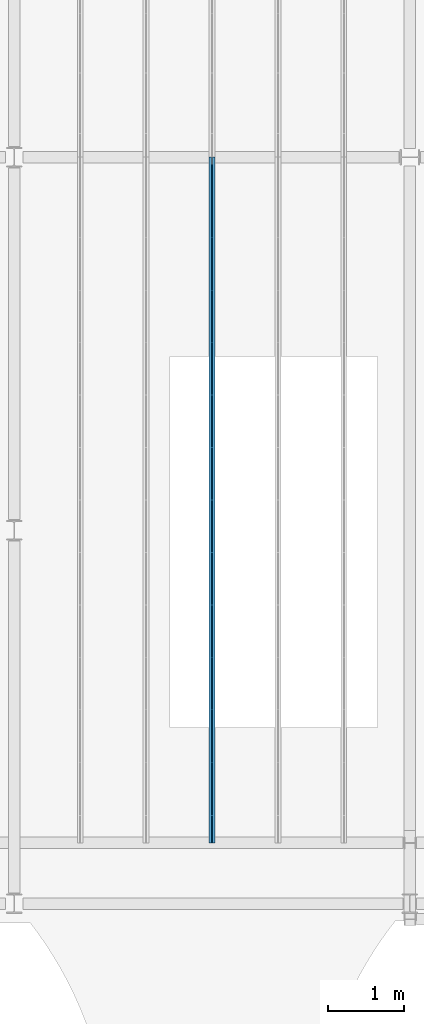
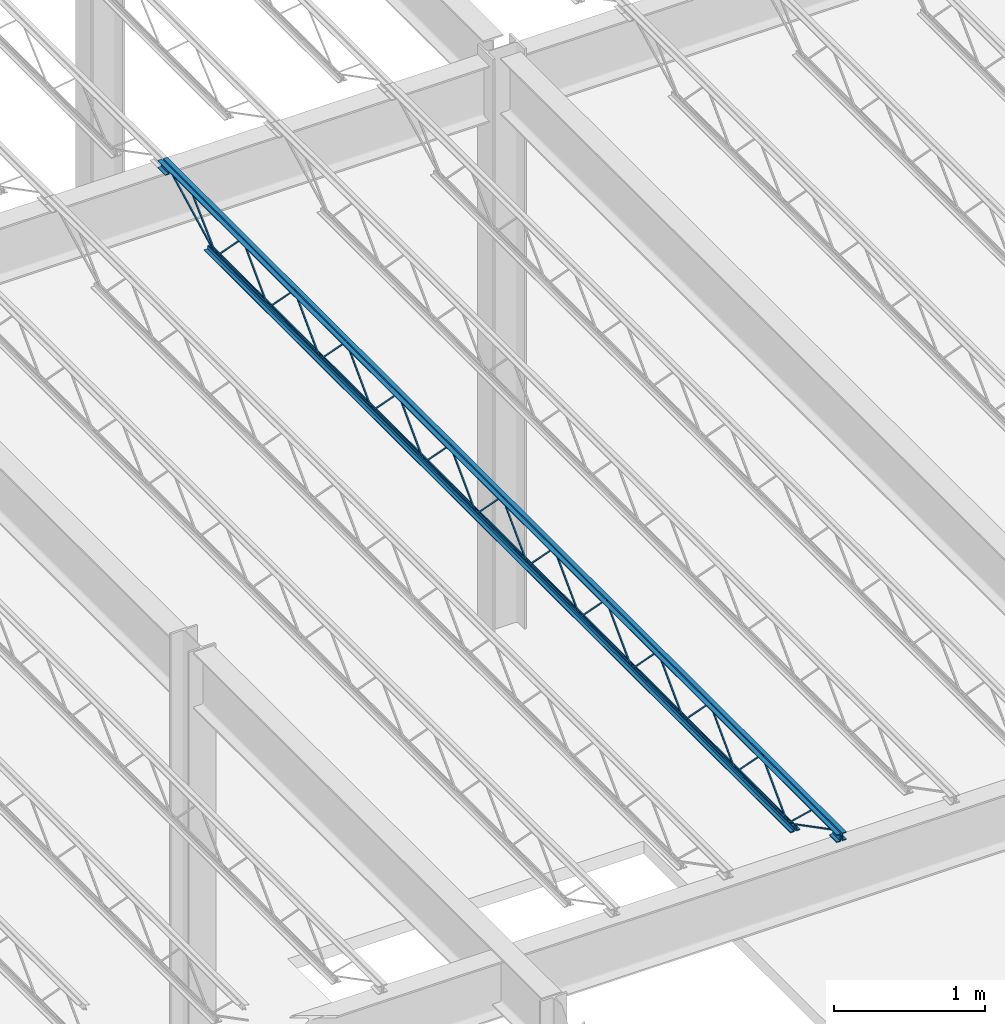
# One storey, part 54 of 119: 1 beam.
"""IFC2X3 building model written with IfcOpenShell, lengths in metres."""

from ifc_helpers import new_model, entity, si_unit, converted_unit, frame, origin, place, context, project, spatial, face_set, surface_model, element, save


model = new_model("IFC2X3")

# Units and contexts
model_context = context("Model", 3, precision=1e-09, world=origin())
plan_context = context("Plan", 3, precision=1e-09, world=origin())
ifc_project = project(units=[si_unit("LENGTHUNIT", "METRE"), si_unit("AREAUNIT", "SQUARE_METRE"), si_unit("VOLUMEUNIT", "CUBIC_METRE"), converted_unit("PLANEANGLEUNIT", "DEGREE", entity("IfcRatioMeasure", 0.01745329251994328), si_unit("PLANEANGLEUNIT", "RADIAN"), dimensions=[0, 0, 0, 0, 0, 0, 0]), si_unit("TIMEUNIT", "SECOND")], contexts=[model_context, plan_context])

# Site, building, storey
site_placement = place(None, origin())
site = spatial("IfcSite", under=ifc_project, at=site_placement, Name="Default", CompositionType="ELEMENT")
building_placement = place(site_placement, origin())
building = spatial("IfcBuilding", under=site, at=building_placement, CompositionType="ELEMENT")
storey_placement = place(building_placement, frame((0.0, 0.0, 4.570000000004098)))
storey = spatial("IfcBuildingStorey", under=building, at=storey_placement, Name="Second Floor", CompositionType="ELEMENT", Elevation=4.570000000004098)

# Beam
beam_placement = place(storey_placement, frame((-17.50673749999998, 35.80499999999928, 4.323999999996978)))
element("IfcBeam", 1, at=beam_placement, inside=storey, Name="M_K-Series Bar Joist-Rod Web:14K1:14K1", ObjectType="M_K-Series Bar Joist-Rod Web:14K1", context=model_context, shape_type="SurfaceModel", body=[
    surface_model("IfcFaceBasedSurfaceModel", [(0.04150000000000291, 6.890090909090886, 0.01110000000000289), (0.03200000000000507, 6.890090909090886, 0.01110000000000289), (0.03200000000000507, 6.890090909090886, 0.001600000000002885), (0.04150000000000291, 6.890090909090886, 0.001600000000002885), (0.0320000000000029, 6.89127206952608, 0.01110000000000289), (0.04150000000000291, 6.89127206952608, 0.01110000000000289), (0.03200000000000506, 6.895259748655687, 0.001600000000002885), (0.03200000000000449, 7.232137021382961, 0.3449000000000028), (0.03200000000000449, 7.234499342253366, 0.3449000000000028), (0.03200000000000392, 7.571376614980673, 0.001600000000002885), (0.03200000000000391, 7.57654545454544, 0.001600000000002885), (0.03200000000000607, 7.57654545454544, 0.01110000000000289), (0.03200000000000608, 7.575364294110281, 0.01110000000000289), (0.03200000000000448, 7.238487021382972, 0.3544000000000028), (0.0320000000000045, 7.228149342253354, 0.3544000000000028), (0.04150000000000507, 6.895259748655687, 0.001600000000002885), (0.04150000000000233, 7.232137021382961, 0.3449000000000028), (0.04150000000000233, 7.234499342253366, 0.3449000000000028), (0.04150000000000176, 7.571376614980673, 0.001600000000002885), (0.04150000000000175, 7.57654545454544, 0.001600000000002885), (0.04150000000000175, 7.57654545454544, 0.01110000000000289), (0.04150000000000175, 7.575364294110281, 0.01110000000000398), (0.04150000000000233, 7.238487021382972, 0.3544000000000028), (0.04150000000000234, 7.228149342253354, 0.3544000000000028), (0.0415000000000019, 6.203636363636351, 0.01110000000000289), (0.03200000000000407, 6.203636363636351, 0.01110000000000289), (0.03200000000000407, 6.203636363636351, 0.001600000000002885), (0.0415000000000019, 6.203636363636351, 0.001600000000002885), (0.0320000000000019, 6.204817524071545, 0.01110000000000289), (0.0415000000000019, 6.204817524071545, 0.01110000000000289), (0.03200000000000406, 6.208805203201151, 0.001600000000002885), (0.03200000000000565, 6.545682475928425, 0.3449000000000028), (0.03200000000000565, 6.548044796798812, 0.3449000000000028), (0.03200000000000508, 6.88492206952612, 0.001600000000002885), (0.03200000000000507, 6.888909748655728, 0.01110000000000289), (0.03200000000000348, 6.552032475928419, 0.3544000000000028), (0.0320000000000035, 6.541694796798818, 0.3544000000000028), (0.04150000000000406, 6.208805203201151, 0.001600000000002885), (0.04150000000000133, 6.545682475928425, 0.3449000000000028), (0.04150000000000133, 6.548044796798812, 0.3449000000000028), (0.04150000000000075, 6.88492206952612, 0.001600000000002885), (0.04150000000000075, 6.890090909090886, 0.001600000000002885), (0.04150000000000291, 6.888909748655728, 0.01110000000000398), (0.04150000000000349, 6.552032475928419, 0.3544000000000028), (0.0415000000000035, 6.541694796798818, 0.3544000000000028), (0.04150000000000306, 5.517181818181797, 0.01110000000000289), (0.03200000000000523, 5.517181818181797, 0.01110000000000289), (0.03200000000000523, 5.517181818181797, 0.001600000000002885), (0.04150000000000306, 5.517181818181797, 0.001600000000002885), (0.03200000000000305, 5.518362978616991, 0.01110000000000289), (0.04150000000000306, 5.518362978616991, 0.01110000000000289), (0.03200000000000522, 5.522350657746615, 0.001600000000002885), (0.03200000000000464, 5.859227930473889, 0.3449000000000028), (0.03200000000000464, 5.861590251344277, 0.3449000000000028), (0.03200000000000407, 6.198467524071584, 0.001600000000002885), (0.03200000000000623, 6.203636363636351, 0.01110000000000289), (0.03200000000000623, 6.202455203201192, 0.01110000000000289), (0.03200000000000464, 5.865577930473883, 0.3544000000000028), (0.03200000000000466, 5.855240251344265, 0.3544000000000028), (0.04150000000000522, 5.522350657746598, 0.001600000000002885), (0.04150000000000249, 5.859227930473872, 0.3449000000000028), (0.04150000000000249, 5.861590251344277, 0.3449000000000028), (0.04150000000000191, 6.198467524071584, 0.001600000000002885), (0.04150000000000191, 6.202455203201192, 0.01110000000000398), (0.04150000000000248, 5.865577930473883, 0.3544000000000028), (0.04150000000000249, 5.855240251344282, 0.3544000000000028), (0.04150000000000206, 4.830727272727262, 0.01110000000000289), (0.03200000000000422, 4.830727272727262, 0.01110000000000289), (0.03200000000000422, 4.830727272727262, 0.001600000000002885), (0.04150000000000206, 4.830727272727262, 0.001600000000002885), (0.03200000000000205, 4.831908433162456, 0.01110000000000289), (0.04150000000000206, 4.831908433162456, 0.01110000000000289), (0.03200000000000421, 4.835896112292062, 0.001600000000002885), (0.0320000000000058, 5.172773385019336, 0.3449000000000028), (0.0320000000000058, 5.175135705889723, 0.3449000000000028), (0.03200000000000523, 5.512012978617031, 0.001600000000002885), (0.03200000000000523, 5.517181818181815, 0.001600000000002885), (0.03200000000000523, 5.516000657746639, 0.01110000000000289), (0.03200000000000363, 5.17912338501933, 0.3544000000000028), (0.03200000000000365, 5.168785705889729, 0.3544000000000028), (0.04150000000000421, 4.835896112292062, 0.001600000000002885), (0.04150000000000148, 5.172773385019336, 0.3449000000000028), (0.04150000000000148, 5.175135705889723, 0.3449000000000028), (0.0415000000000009, 5.512012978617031, 0.001600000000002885), (0.0415000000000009, 5.517181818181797, 0.001600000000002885), (0.04150000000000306, 5.517181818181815, 0.01110000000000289), (0.04150000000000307, 5.516000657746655, 0.01110000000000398), (0.04150000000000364, 5.17912338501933, 0.3544000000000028), (0.04150000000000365, 5.168785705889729, 0.3544000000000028), (0.04150000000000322, 4.144272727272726, 0.01110000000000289), (0.03200000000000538, 4.144272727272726, 0.01110000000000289), (0.03200000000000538, 4.144272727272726, 0.001600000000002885), (0.04150000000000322, 4.144272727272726, 0.001600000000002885), (0.03200000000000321, 4.145453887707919, 0.01110000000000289), (0.04150000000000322, 4.145453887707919, 0.01110000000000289), (0.03200000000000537, 4.149441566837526, 0.001600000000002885), (0.0320000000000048, 4.4863188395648, 0.3449000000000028), (0.0320000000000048, 4.488681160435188, 0.3449000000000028), (0.03200000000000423, 4.825558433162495, 0.001600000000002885), (0.03200000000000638, 4.830727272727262, 0.01110000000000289), (0.03200000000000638, 4.829546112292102, 0.01110000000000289), (0.03200000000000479, 4.492668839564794, 0.3544000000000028), (0.03200000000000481, 4.482331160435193, 0.3544000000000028), (0.04150000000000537, 4.149441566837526, 0.001600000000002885), (0.04150000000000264, 4.4863188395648, 0.3449000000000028), (0.04150000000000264, 4.488681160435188, 0.3449000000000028), (0.04150000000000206, 4.825558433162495, 0.001600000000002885), (0.04150000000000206, 4.829546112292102, 0.01110000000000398), (0.04150000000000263, 4.492668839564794, 0.3544000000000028), (0.04150000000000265, 4.482331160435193, 0.3544000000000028), (0.04150000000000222, 3.457818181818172, 0.01110000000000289), (0.03200000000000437, 3.457818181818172, 0.01110000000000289), (0.03200000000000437, 3.457818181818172, 0.001600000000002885), (0.04150000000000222, 3.457818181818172, 0.001600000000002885), (0.03200000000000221, 3.458999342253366, 0.01110000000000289), (0.04150000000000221, 3.458999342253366, 0.01110000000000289), (0.03200000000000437, 3.462987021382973, 0.001600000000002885), (0.0320000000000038, 3.799864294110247, 0.3449000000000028), (0.03200000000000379, 3.802226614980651, 0.3449000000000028), (0.03200000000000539, 4.13910388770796, 0.001600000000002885), (0.03200000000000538, 4.143091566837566, 0.01110000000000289), (0.03200000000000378, 3.806214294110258, 0.3544000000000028), (0.0320000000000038, 3.79587661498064, 0.3544000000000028), (0.04150000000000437, 3.462987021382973, 0.001600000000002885), (0.04150000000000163, 3.799864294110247, 0.3449000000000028), (0.04150000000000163, 3.802226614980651, 0.3449000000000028), (0.04150000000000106, 4.13910388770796, 0.001600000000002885), (0.04150000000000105, 4.144272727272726, 0.001600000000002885), (0.04150000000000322, 4.143091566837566, 0.01110000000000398), (0.04150000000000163, 3.806214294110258, 0.3544000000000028), (0.04150000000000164, 3.79587661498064, 0.3544000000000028), (0.04150000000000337, 2.771363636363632, 0.01110000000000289), (0.03200000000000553, 2.771363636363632, 0.01110000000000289), (0.03200000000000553, 2.771363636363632, 0.001600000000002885), (0.04150000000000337, 2.771363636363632, 0.001600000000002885), (0.03200000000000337, 2.77254479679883, 0.01110000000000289), (0.04150000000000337, 2.77254479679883, 0.01110000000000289), (0.03200000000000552, 2.776532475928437, 0.001600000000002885), (0.03200000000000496, 3.113409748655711, 0.3449000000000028), (0.03200000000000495, 3.115772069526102, 0.3449000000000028), (0.03200000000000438, 3.452649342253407, 0.001600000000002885), (0.03200000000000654, 3.457818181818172, 0.01110000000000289), (0.03200000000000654, 3.456637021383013, 0.01110000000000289), (0.03200000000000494, 3.119759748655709, 0.3544000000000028), (0.03200000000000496, 3.1094220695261, 0.3544000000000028), (0.04150000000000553, 2.776532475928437, 0.001600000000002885), (0.04150000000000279, 3.113409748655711, 0.3449000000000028), (0.04150000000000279, 3.115772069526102, 0.3449000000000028), (0.04150000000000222, 3.452649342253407, 0.001600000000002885), (0.04150000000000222, 3.456637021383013, 0.01110000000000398), (0.04150000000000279, 3.119759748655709, 0.3544000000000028), (0.0415000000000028, 3.1094220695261, 0.3544000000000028), (0.04150000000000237, 2.084909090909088, 0.01110000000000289), (0.03200000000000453, 2.084909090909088, 0.01110000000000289), (0.03200000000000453, 2.084909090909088, 0.001600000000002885), (0.04150000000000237, 2.084909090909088, 0.001600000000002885), (0.03200000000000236, 2.086090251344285, 0.01110000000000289), (0.04150000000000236, 2.086090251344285, 0.01110000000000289), (0.03200000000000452, 2.090077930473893, 0.001600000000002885), (0.03200000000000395, 2.426955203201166, 0.3449000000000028), (0.03200000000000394, 2.429317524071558, 0.3449000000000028), (0.03200000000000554, 2.766194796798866, 0.001600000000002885), (0.03200000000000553, 2.770182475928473, 0.01110000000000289), (0.03200000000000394, 2.433305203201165, 0.3544000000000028), (0.03200000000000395, 2.422967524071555, 0.3544000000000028), (0.04150000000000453, 2.090077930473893, 0.001600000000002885), (0.04150000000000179, 2.426955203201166, 0.3449000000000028), (0.04150000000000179, 2.429317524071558, 0.3449000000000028), (0.04150000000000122, 2.766194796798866, 0.001600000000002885), (0.04150000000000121, 2.771363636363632, 0.001600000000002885), (0.04150000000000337, 2.770182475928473, 0.01110000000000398), (0.04150000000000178, 2.433305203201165, 0.3544000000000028), (0.04150000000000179, 2.422967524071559, 0.3544000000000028), (0.04150000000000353, 1.398454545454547, 0.01110000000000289), (0.03200000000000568, 1.398454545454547, 0.01110000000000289), (0.03200000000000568, 1.398454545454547, 0.001600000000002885), (0.04150000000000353, 1.398454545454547, 0.001600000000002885), (0.03200000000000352, 1.399635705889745, 0.01110000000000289), (0.04150000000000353, 1.399635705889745, 0.01110000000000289), (0.03200000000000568, 1.403623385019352, 0.001600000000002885), (0.03200000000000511, 1.740500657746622, 0.3449000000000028), (0.0320000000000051, 1.742862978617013, 0.3449000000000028), (0.03200000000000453, 2.079740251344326, 0.001600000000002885), (0.03200000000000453, 2.084909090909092, 0.001600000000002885), (0.03200000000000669, 2.084909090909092, 0.01110000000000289), (0.03200000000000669, 2.083727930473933, 0.01110000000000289), (0.03200000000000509, 1.746850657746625, 0.3544000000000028), (0.03200000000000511, 1.736512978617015, 0.3544000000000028), (0.04150000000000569, 1.403623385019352, 0.001600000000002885), (0.04150000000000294, 1.740500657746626, 0.3449000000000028), (0.04150000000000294, 1.742862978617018, 0.3449000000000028), (0.04150000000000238, 2.079740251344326, 0.001600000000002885), (0.04150000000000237, 2.084909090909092, 0.001600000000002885), (0.04150000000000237, 2.084909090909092, 0.01110000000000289), (0.04150000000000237, 2.083727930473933, 0.01110000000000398), (0.04150000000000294, 1.746850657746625, 0.3544000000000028), (0.04150000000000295, 1.736512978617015, 0.3544000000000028), (0.04150000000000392, 7.57654545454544, 0.01109999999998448), (0.03200000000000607, 7.57654545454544, 0.01109999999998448), (0.03200000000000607, 7.57654545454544, 0.001599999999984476), (0.04150000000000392, 7.57654545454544, 0.001599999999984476), (0.03200000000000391, 7.577726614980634, 0.01109999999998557), (0.04150000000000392, 7.577726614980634, 0.01109999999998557), (0.0320000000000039, 7.58171429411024, 0.001599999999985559), (0.0320000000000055, 7.918591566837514, 0.3448999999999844), (0.0320000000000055, 7.920953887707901, 0.3448999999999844), (0.03200000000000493, 8.25783116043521, 0.001599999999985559), (0.03200000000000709, 8.262999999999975, 0.001599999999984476), (0.03200000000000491, 8.262999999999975, 0.01109999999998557), (0.03200000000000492, 8.261818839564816, 0.01109999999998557), (0.03200000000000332, 7.924941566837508, 0.3543999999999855), (0.03200000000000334, 7.914603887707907, 0.3543999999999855), (0.04150000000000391, 7.58171429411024, 0.001599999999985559), (0.04150000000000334, 7.918591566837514, 0.3448999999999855), (0.04150000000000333, 7.920953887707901, 0.3448999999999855), (0.04150000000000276, 8.25783116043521, 0.001599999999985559), (0.04150000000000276, 8.262999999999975, 0.001599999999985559), (0.04150000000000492, 8.262999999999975, 0.01109999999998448), (0.04150000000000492, 8.261818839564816, 0.01109999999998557), (0.0415000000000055, 7.924941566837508, 0.3543999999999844), (0.04150000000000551, 7.914603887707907, 0.3543999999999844), (0.04150000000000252, 0.7120000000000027, 0.01110000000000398), (0.03200000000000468, 0.7120000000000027, 0.01110000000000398), (0.03200000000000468, 0.7120000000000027, 0.001600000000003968), (0.04150000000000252, 0.7120000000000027, 0.001600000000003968), (0.03200000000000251, 0.7131811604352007, 0.01110000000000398), (0.04150000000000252, 0.7131811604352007, 0.01110000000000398), (0.03200000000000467, 0.7171688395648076, 0.001600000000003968), (0.0320000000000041, 1.054046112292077, 0.3449000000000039), (0.0320000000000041, 1.056408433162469, 0.3449000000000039), (0.0320000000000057, 1.393285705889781, 0.001600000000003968), (0.03200000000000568, 1.398454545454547, 0.001600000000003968), (0.03200000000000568, 1.398454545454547, 0.01110000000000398), (0.03200000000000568, 1.397273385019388, 0.01110000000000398), (0.03200000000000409, 1.06039611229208, 0.3544000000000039), (0.03200000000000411, 1.05005843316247, 0.3544000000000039), (0.04150000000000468, 0.7171688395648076, 0.001600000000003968), (0.04150000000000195, 1.054046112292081, 0.3449000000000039), (0.04150000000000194, 1.056408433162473, 0.3449000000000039), (0.04150000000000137, 1.393285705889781, 0.001600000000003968), (0.04150000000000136, 1.398454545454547, 0.001600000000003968), (0.04150000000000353, 1.398454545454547, 0.01110000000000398), (0.04150000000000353, 1.397273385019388, 0.01110000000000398), (0.04150000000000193, 1.06039611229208, 0.3544000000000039), (0.04150000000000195, 1.05005843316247, 0.3544000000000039), (0.03200000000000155, 8.975000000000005, 0.3559999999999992), (0.0, 8.975000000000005, 0.3559999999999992), (0.0, 8.975000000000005, 0.3494999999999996), (0.02550000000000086, 8.975000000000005, 0.3494999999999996), (0.02550000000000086, 8.975000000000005, 0.3239999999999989), (0.03200000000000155, 8.975000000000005, 0.3239999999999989), (0.04150000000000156, 8.975000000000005, 0.3559999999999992), (0.04150000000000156, 8.975000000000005, 0.3239999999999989), (0.04800000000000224, 8.975000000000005, 0.3239999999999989), (0.04800000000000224, 8.975000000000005, 0.3494999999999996), (0.07350000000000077, 8.975000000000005, 0.3494999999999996), (0.07350000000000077, 8.975000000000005, 0.3559999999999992), (0.03200000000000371, 0.0, 0.3559999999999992), (0.0, 0.0, 0.3559999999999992), (0.0, 0.0, 0.3494999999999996), (0.02550000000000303, 0.0, 0.3494999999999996), (0.02550000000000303, 0.0, 0.3239999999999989), (0.03200000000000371, 0.0, 0.3239999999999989), (0.04150000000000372, 0.0, 0.3559999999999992), (0.04150000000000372, 0.0, 0.3239999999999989), (0.04800000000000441, 0.0, 0.3239999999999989), (0.04800000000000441, 0.0, 0.3494999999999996), (0.07350000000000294, 0.0, 0.3494999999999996), (0.07350000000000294, 0.0, 0.3559999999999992), (0.04150000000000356, 0.0999999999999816, 0.2924999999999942), (0.07350000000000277, 0.0999999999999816, 0.2924999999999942), (0.07350000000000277, 0.0999999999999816, 0.2989999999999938), (0.04800000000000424, 0.0999999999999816, 0.2989999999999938), (0.04800000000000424, 0.0999999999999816, 0.3239999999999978), (0.04150000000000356, 0.0999999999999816, 0.3239999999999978), (0.0, 0.0999999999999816, 0.2924999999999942), (0.03200000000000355, 0.0999999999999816, 0.2924999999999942), (0.03200000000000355, 0.0999999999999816, 0.3239999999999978), (0.02550000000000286, 0.0999999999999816, 0.3239999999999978), (0.02550000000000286, 0.0999999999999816, 0.2989999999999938), (0.0, 0.0999999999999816, 0.2989999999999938), (0.04150000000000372, 0.0, 0.2924999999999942), (0.07350000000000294, 0.0, 0.2924999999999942), (0.07350000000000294, 0.0, 0.2989999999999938), (0.04800000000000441, 0.0, 0.2989999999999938), (0.04800000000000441, 0.0, 0.3239999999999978), (0.04150000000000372, 0.0, 0.3239999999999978), (0.0, 0.0, 0.2924999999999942), (0.03200000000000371, 0.0, 0.2924999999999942), (0.03200000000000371, 0.0, 0.3239999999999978), (0.02550000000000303, 0.0, 0.3239999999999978), (0.02550000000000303, 0.0, 0.2989999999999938), (0.0, 0.0, 0.2989999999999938), (0.03200000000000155, 8.975000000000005, 0.2924999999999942), (0.03200000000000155, 8.975000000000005, 0.3239999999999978), (0.02550000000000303, 8.975000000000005, 0.3239999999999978), (0.02550000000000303, 8.975000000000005, 0.2989999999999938), (0.0, 8.975000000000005, 0.2989999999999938), (0.0, 8.975000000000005, 0.2924999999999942), (0.04150000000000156, 8.975000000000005, 0.2924999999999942), (0.07350000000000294, 8.975000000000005, 0.2924999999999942), (0.07350000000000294, 8.975000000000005, 0.2989999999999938), (0.04800000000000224, 8.975000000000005, 0.2989999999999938), (0.04800000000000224, 8.975000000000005, 0.3239999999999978), (0.04150000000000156, 8.975000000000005, 0.3239999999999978), (0.03200000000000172, 8.874999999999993, 0.2924999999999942), (0.03200000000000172, 8.874999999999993, 0.3239999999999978), (0.0255000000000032, 8.874999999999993, 0.3239999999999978), (0.0255000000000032, 8.874999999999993, 0.2989999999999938), (0.0, 8.874999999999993, 0.2989999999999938), (0.0, 8.874999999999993, 0.2924999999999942), (0.04150000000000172, 8.874999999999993, 0.2924999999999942), (0.07350000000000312, 8.874999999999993, 0.2924999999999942), (0.07350000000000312, 8.874999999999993, 0.2989999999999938), (0.04800000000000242, 8.874999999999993, 0.2989999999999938), (0.04800000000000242, 8.874999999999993, 0.3239999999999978), (0.04150000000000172, 8.874999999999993, 0.3239999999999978), (0.03200000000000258, 8.363000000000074, 0.0), (0.03200000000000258, 8.363000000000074, 0.03199999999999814), (0.02550000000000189, 8.363000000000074, 0.03199999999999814), (0.02550000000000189, 8.363000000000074, 0.006499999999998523), (0.0, 8.363000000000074, 0.006499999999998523), (0.0, 8.363000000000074, 0.0), (0.04150000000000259, 8.363000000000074, 0.0), (0.07350000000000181, 8.363000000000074, 0.0), (0.07350000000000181, 8.363000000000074, 0.006499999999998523), (0.04800000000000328, 8.363000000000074, 0.006499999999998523), (0.04800000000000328, 8.363000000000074, 0.03199999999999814), (0.04150000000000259, 8.363000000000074, 0.03199999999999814), (0.03200000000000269, 0.6120000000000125, 0.0), (0.03200000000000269, 0.6120000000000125, 0.03199999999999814), (0.02550000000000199, 0.6120000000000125, 0.03199999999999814), (0.02550000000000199, 0.6120000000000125, 0.006499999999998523), (0.0, 0.6120000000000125, 0.006499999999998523), (0.0, 0.6120000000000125, 0.0), (0.04150000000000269, 0.6120000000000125, 0.0), (0.07350000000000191, 0.6120000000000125, 0.0), (0.07350000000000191, 0.6120000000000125, 0.006499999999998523), (0.04800000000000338, 0.6120000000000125, 0.006499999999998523), (0.04800000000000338, 0.6120000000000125, 0.03199999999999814), (0.04150000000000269, 0.6120000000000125, 0.03199999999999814), (0.04150000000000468, 0.7141882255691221, 0.01056594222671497), (0.03200000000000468, 0.7141882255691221, 0.01056594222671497), (0.03200000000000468, 0.7098117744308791, 0.002134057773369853), (0.04150000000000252, 0.7098117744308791, 0.002134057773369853), (0.04150000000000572, 0.101159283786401, 0.3287499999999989), (0.04150000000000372, 0.0, 0.3287499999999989), (0.04150000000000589, 0.0, 0.3192499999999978), (0.04150000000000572, 0.09884071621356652, 0.3192499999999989), (0.03200000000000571, 0.09884071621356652, 0.3192499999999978), (0.03200000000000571, 0.101159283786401, 0.3287499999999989), (0.03200000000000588, 0.0, 0.3287499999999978), (0.03200000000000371, 0.0, 0.3192499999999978), (0.04150000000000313, 0.3488155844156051, 0.3417000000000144), (0.0320000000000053, 0.3488155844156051, 0.3417000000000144), (0.0320000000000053, 0.3488155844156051, 0.3322000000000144), (0.04150000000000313, 0.3488155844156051, 0.3322000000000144), (0.0320000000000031, 0.3634023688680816, 0.3417000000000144), (0.0415000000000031, 0.3634023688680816, 0.3417000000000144), (0.03200000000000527, 0.3596287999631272, 0.3322000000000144), (0.03200000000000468, 0.7087406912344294, 0.002894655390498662), (0.03200000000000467, 0.7152593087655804, 0.009805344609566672), (0.04150000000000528, 0.3596287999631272, 0.3322000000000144), (0.04150000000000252, 0.7087406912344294, 0.002894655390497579), (0.04150000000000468, 0.7152593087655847, 0.009805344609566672), (0.04150000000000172, 8.877188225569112, 0.3197840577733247), (0.04150000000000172, 8.872811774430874, 0.3282159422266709), (0.03200000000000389, 8.872811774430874, 0.3282159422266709), (0.03200000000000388, 8.877188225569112, 0.3197840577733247), (0.04150000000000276, 8.265188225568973, 0.002134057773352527), (0.04150000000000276, 8.260811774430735, 0.01056594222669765), (0.03200000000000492, 8.260811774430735, 0.01056594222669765), (0.03200000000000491, 8.265188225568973, 0.002134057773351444), (0.04150000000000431, 8.624030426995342, 0.346222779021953), (0.04150000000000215, 8.617452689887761, 0.3530772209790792), (0.03200000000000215, 8.617452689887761, 0.3530772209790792), (0.03200000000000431, 8.624030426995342, 0.346222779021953), (0.04150000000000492, 8.266288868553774, 0.002922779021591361), (0.04150000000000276, 8.259711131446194, 0.009777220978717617), (0.03200000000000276, 8.259711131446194, 0.009777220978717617), (0.03200000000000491, 8.266288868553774, 0.002922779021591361)], [face_set([[[0, 1, 2, 3]], [[1, 4, 5, 0]], [[2, 6, 7, 8, 9, 10, 11, 12, 13, 14, 4, 1]], [[3, 2, 6, 15]], [[0, 3, 15, 16, 17, 18, 19, 20, 21, 22, 23, 5]], [[4, 5, 23, 14]], [[15, 16, 7, 6]], [[14, 13, 22, 23]], [[16, 7, 8, 17]], [[13, 12, 21, 22]], [[17, 8, 9, 18]], [[20, 11, 10, 19]], [[12, 11, 20, 21]], [[18, 9, 10, 19]]]), face_set([[[24, 25, 26, 27]], [[25, 28, 29, 24]], [[26, 30, 31, 32, 33, 2, 1, 34, 35, 36, 28, 25]], [[27, 26, 30, 37]], [[24, 27, 37, 38, 39, 40, 41, 0, 42, 43, 44, 29]], [[28, 29, 44, 36]], [[37, 38, 31, 30]], [[36, 35, 43, 44]], [[38, 31, 32, 39]], [[35, 34, 42, 43]], [[39, 32, 33, 40]], [[0, 1, 2, 41]], [[34, 1, 0, 42]], [[40, 33, 2, 41]]]), face_set([[[45, 46, 47, 48]], [[46, 49, 50, 45]], [[47, 51, 52, 53, 54, 26, 55, 56, 57, 58, 49, 46]], [[48, 47, 51, 59]], [[45, 48, 59, 60, 61, 62, 27, 24, 63, 64, 65, 50]], [[49, 50, 65, 58]], [[59, 60, 52, 51]], [[58, 57, 64, 65]], [[60, 52, 53, 61]], [[57, 56, 63, 64]], [[61, 53, 54, 62]], [[24, 55, 26, 27]], [[56, 55, 24, 63]], [[62, 54, 26, 27]]]), face_set([[[66, 67, 68, 69]], [[67, 70, 71, 66]], [[68, 72, 73, 74, 75, 76, 46, 77, 78, 79, 70, 67]], [[69, 68, 72, 80]], [[66, 69, 80, 81, 82, 83, 84, 85, 86, 87, 88, 71]], [[70, 71, 88, 79]], [[80, 81, 73, 72]], [[79, 78, 87, 88]], [[81, 73, 74, 82]], [[78, 77, 86, 87]], [[82, 74, 75, 83]], [[85, 46, 76, 84]], [[77, 46, 85, 86]], [[83, 75, 76, 84]]]), face_set([[[89, 90, 91, 92]], [[90, 93, 94, 89]], [[91, 95, 96, 97, 98, 68, 99, 100, 101, 102, 93, 90]], [[92, 91, 95, 103]], [[89, 92, 103, 104, 105, 106, 69, 66, 107, 108, 109, 94]], [[93, 94, 109, 102]], [[103, 104, 96, 95]], [[102, 101, 108, 109]], [[104, 96, 97, 105]], [[101, 100, 107, 108]], [[105, 97, 98, 106]], [[66, 99, 68, 69]], [[100, 99, 66, 107]], [[106, 98, 68, 69]]]), face_set([[[110, 111, 112, 113]], [[111, 114, 115, 110]], [[112, 116, 117, 118, 119, 91, 90, 120, 121, 122, 114, 111]], [[113, 112, 116, 123]], [[110, 113, 123, 124, 125, 126, 127, 89, 128, 129, 130, 115]], [[114, 115, 130, 122]], [[123, 124, 117, 116]], [[122, 121, 129, 130]], [[124, 117, 118, 125]], [[121, 120, 128, 129]], [[125, 118, 119, 126]], [[89, 90, 91, 127]], [[120, 90, 89, 128]], [[126, 119, 91, 127]]]), face_set([[[131, 132, 133, 134]], [[132, 135, 136, 131]], [[133, 137, 138, 139, 140, 112, 141, 142, 143, 144, 135, 132]], [[134, 133, 137, 145]], [[131, 134, 145, 146, 147, 148, 113, 110, 149, 150, 151, 136]], [[135, 136, 151, 144]], [[145, 146, 138, 137]], [[144, 143, 150, 151]], [[146, 138, 139, 147]], [[143, 142, 149, 150]], [[147, 139, 140, 148]], [[110, 141, 112, 113]], [[142, 141, 110, 149]], [[148, 140, 112, 113]]]), face_set([[[152, 153, 154, 155]], [[153, 156, 157, 152]], [[154, 158, 159, 160, 161, 133, 132, 162, 163, 164, 156, 153]], [[155, 154, 158, 165]], [[152, 155, 165, 166, 167, 168, 169, 131, 170, 171, 172, 157]], [[156, 157, 172, 164]], [[165, 166, 159, 158]], [[164, 163, 171, 172]], [[166, 159, 160, 167]], [[163, 162, 170, 171]], [[167, 160, 161, 168]], [[131, 132, 133, 169]], [[162, 132, 131, 170]], [[168, 161, 133, 169]]]), face_set([[[173, 174, 175, 176]], [[174, 177, 178, 173]], [[175, 179, 180, 181, 182, 183, 184, 185, 186, 187, 177, 174]], [[176, 175, 179, 188]], [[173, 176, 188, 189, 190, 191, 192, 193, 194, 195, 196, 178]], [[177, 178, 196, 187]], [[188, 189, 180, 179]], [[187, 186, 195, 196]], [[189, 180, 181, 190]], [[186, 185, 194, 195]], [[190, 181, 182, 191]], [[193, 184, 183, 192]], [[185, 184, 193, 194]], [[191, 182, 183, 192]]]), face_set([[[197, 198, 199, 200]], [[198, 201, 202, 197]], [[199, 203, 204, 205, 206, 207, 208, 209, 210, 211, 201, 198]], [[200, 199, 203, 212]], [[197, 200, 212, 213, 214, 215, 216, 217, 218, 219, 220, 202]], [[201, 202, 220, 211]], [[212, 213, 204, 203]], [[211, 210, 219, 220]], [[213, 204, 205, 214]], [[210, 209, 218, 219]], [[214, 205, 206, 215]], [[217, 208, 207, 216]], [[209, 208, 217, 218]], [[215, 206, 207, 216]]]), face_set([[[221, 222, 223, 224]], [[222, 225, 226, 221]], [[223, 227, 228, 229, 230, 231, 232, 233, 234, 235, 225, 222]], [[224, 223, 227, 236]], [[221, 224, 236, 237, 238, 239, 240, 241, 242, 243, 244, 226]], [[225, 226, 244, 235]], [[236, 237, 228, 227]], [[235, 234, 243, 244]], [[237, 228, 229, 238]], [[234, 233, 242, 243]], [[238, 229, 230, 239]], [[241, 232, 231, 240]], [[233, 232, 241, 242]], [[239, 230, 231, 240]]]), face_set([[[245, 246, 247, 248, 249, 250]], [[251, 252, 253, 254, 255, 256]], [[257, 258, 259, 260, 261, 262]], [[263, 264, 265, 266, 267, 268]], [[250, 245, 257, 262]], [[249, 250, 262, 261]], [[248, 260, 261, 249]], [[247, 248, 260, 259]], [[246, 258, 259, 247]], [[245, 257, 258, 246]], [[256, 268, 263, 251]], [[255, 256, 268, 267]], [[254, 255, 267, 266]], [[253, 254, 266, 265]], [[252, 253, 265, 264]], [[251, 263, 264, 252]]]), face_set([[[269, 270, 271, 272, 273, 274]], [[275, 276, 277, 278, 279, 280]], [[281, 282, 283, 284, 285, 286]], [[287, 288, 289, 290, 291, 292]], [[274, 286, 281, 269]], [[273, 285, 286, 274]], [[272, 273, 285, 284]], [[271, 283, 284, 272]], [[270, 271, 283, 282]], [[269, 270, 282, 281]], [[280, 292, 287, 275]], [[279, 291, 292, 280]], [[278, 290, 291, 279]], [[277, 289, 290, 278]], [[276, 277, 289, 288]], [[275, 276, 288, 287]]]), face_set([[[293, 294, 295, 296, 297, 298]], [[299, 300, 301, 302, 303, 304]], [[305, 306, 307, 308, 309, 310]], [[311, 312, 313, 314, 315, 316]], [[298, 293, 305, 310]], [[297, 309, 310, 298]], [[296, 308, 309, 297]], [[295, 307, 308, 296]], [[294, 306, 307, 295]], [[293, 294, 306, 305]], [[304, 316, 311, 299]], [[303, 315, 316, 304]], [[302, 303, 315, 314]], [[301, 313, 314, 302]], [[300, 301, 313, 312]], [[299, 300, 312, 311]]]), face_set([[[317, 318, 319, 320, 321, 322]], [[323, 324, 325, 326, 327, 328]], [[329, 330, 331, 332, 333, 334]], [[335, 336, 337, 338, 339, 340]], [[322, 317, 329, 334]], [[321, 333, 334, 322]], [[320, 332, 333, 321]], [[319, 331, 332, 320]], [[318, 330, 331, 319]], [[317, 318, 330, 329]], [[328, 340, 335, 323]], [[327, 339, 340, 328]], [[326, 327, 339, 338]], [[325, 337, 338, 326]], [[324, 325, 337, 336]], [[323, 324, 336, 335]]]), face_set([[[341, 342, 343, 344]], [[344, 341, 345, 346, 347, 348]], [[343, 344, 348, 349]], [[342, 350, 351, 352, 349, 343]], [[341, 345, 350, 342]], [[346, 351, 352, 347]], [[349, 348, 347, 352]], [[345, 346, 351, 350]]]), face_set([[[353, 354, 355, 356]], [[354, 357, 358, 353]], [[355, 359, 360, 361, 357, 354]], [[356, 355, 359, 362]], [[353, 356, 362, 363, 364, 358]], [[364, 361, 360, 363]], [[357, 361, 364, 358]], [[362, 359, 360, 363]]]), face_set([[[365, 366, 367, 368]], [[369, 370, 371, 372]], [[368, 372, 369, 365]], [[367, 371, 372, 368]], [[366, 367, 371, 370]], [[365, 366, 370, 369]]]), face_set([[[373, 374, 375, 376]], [[377, 378, 379, 380]], [[376, 380, 377, 373]], [[375, 379, 380, 376]], [[374, 375, 379, 378]], [[373, 374, 378, 377]]])]),
])

save(model, "model.ifc")
